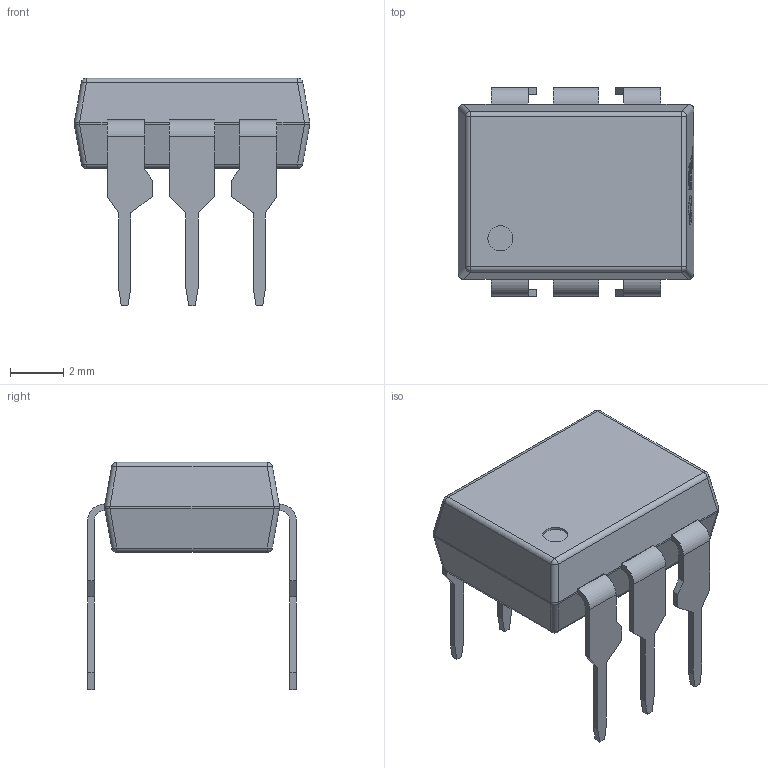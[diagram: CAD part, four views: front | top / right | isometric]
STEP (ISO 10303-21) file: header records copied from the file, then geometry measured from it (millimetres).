
FILE_DESCRIPTION(/* description */ ('STEP AP242 Edition 2','CAx-IF Rec.Pracs.---Representation and Presentation of Product Manufacturing Information (PMI)---4.0---2014-10-13','CAx-IF Rec.Pracs.---3D Tessellated Geometry---0.4---2014-09-14','2;1','CAx-IF Rec.Pracs.---User Defined Attributes---1.5---2016-08-15'),/* implementation_level */ '2;1');
FILE_NAME(/* name */ 'Assembly 1 - DIP-6_L8.5-W6.4-P2.54-LS7.6-BL~DIP-6_L8.5-W6.4-P2.54-LS7.6-BL~nxQB',/* time_stamp */ '2026-04-02T09:55:14Z',/* author */ (''),/* organization */ (''),/* preprocessor_version */ 'ST-DEVELOPER v20',/* originating_system */ 'ONSHAPE BY PTC INC, 1.212',/* authorisation */ ' ');
FILE_SCHEMA (('AP242_MANAGED_MODEL_BASED_3D_ENGINEERING_MIM_LF { 1 0 10303 442 3 1 4 }'));
Length unit declared in the file: metre
Products named in the file (1): DIP-6_L8.5-W6.4-P2.54-LS7.6-BL~DIP-6_L8.5-W6.4-P2.54-LS7.6-BL~nxQB
Bounding box: 8.88 x 7.87 x 8.58 mm (x, y, z)
Volume: 194.1 mm3; surface area: 302.6 mm2
Topology: 1 solids, 1 shells, 372 faces, 975 edges, 624 vertices
Faces by surface type: plane 223, bspline 72, cylinder 65, sphere 12
Full cylindrical faces by diameter (mm): 0.944 x1
Entity records: 13954 total; most frequent: CARTESIAN_POINT 2991, ORIENTED_EDGE 1944, DIRECTION 1549, EDGE_CURVE 972, LINE 687, VECTOR 687, VERTEX_POINT 623, AXIS2_PLACEMENT_3D 431
